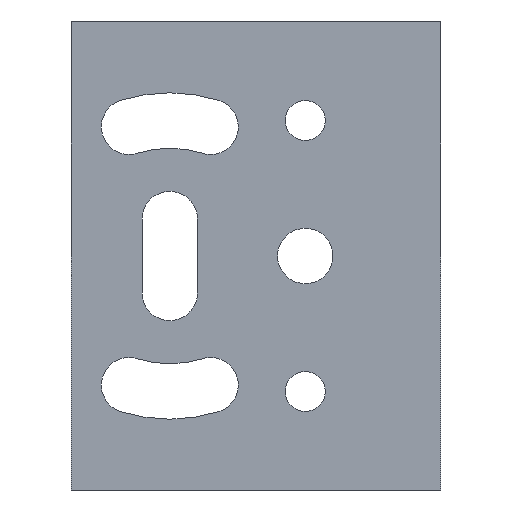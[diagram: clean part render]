
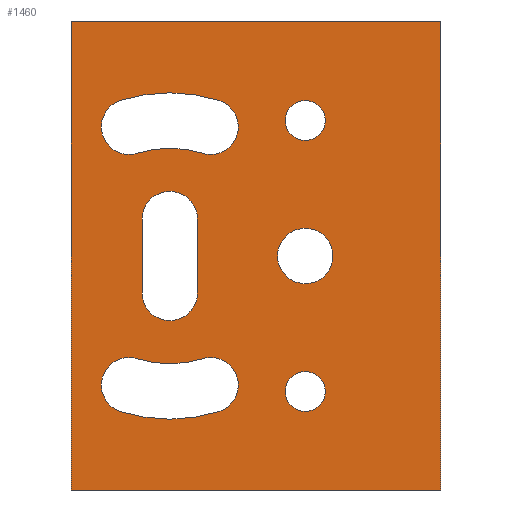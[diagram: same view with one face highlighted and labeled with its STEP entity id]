
A CAD part, left-side view. The second image highlights one B-rep face of the part: STEP entity #1460.
In plain terms, the highlighted planar face has unit normal (-1, 0, 0).
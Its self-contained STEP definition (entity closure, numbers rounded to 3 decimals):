
#923=CARTESIAN_POINT('',(-60.,18.016,6.363));
#924=VERTEX_POINT('',#923);
#925=CARTESIAN_POINT('',(-60.,25.984,6.363));
#926=VERTEX_POINT('',#925);
#927=CARTESIAN_POINT('',(-60.,22.,19.));
#928=DIRECTION('',(1.0,0.0,0.0));
#929=DIRECTION('',(0.0,0.0,-1.0));
#930=AXIS2_PLACEMENT_3D('',#927,#928,#929);
#931=CIRCLE('',#930,13.25);
#932=EDGE_CURVE('',#924,#926,#931,.T.);
#965=CARTESIAN_POINT('',(-60.,24.631,10.655));
#966=VERTEX_POINT('',#965);
#967=CARTESIAN_POINT('',(-60.,25.308,8.509));
#968=DIRECTION('',(1.0,0.,0.));
#969=DIRECTION('',(0.,0.301,-0.954));
#970=AXIS2_PLACEMENT_3D('',#967,#968,#969);
#971=CIRCLE('',#970,2.25);
#972=EDGE_CURVE('',#926,#966,#971,.T.);
#998=CARTESIAN_POINT('',(-60.,19.369,10.655));
#999=VERTEX_POINT('',#998);
#1000=CARTESIAN_POINT('',(-60.,22.,19.));
#1001=DIRECTION('',(-1.0,0.,0.));
#1002=DIRECTION('',(0.,0.301,0.954));
#1003=AXIS2_PLACEMENT_3D('',#1000,#1001,#1002);
#1004=CIRCLE('',#1003,8.75);
#1005=EDGE_CURVE('',#966,#999,#1004,.T.);
#1031=CARTESIAN_POINT('',(-60.,18.692,8.509));
#1032=DIRECTION('',(1.0,0.,0.));
#1033=DIRECTION('',(0.,0.301,0.954));
#1034=AXIS2_PLACEMENT_3D('',#1031,#1032,#1033);
#1035=CIRCLE('',#1034,2.25);
#1036=EDGE_CURVE('',#999,#924,#1035,.T.);
#1055=CARTESIAN_POINT('',(-60.,11.,31.621));
#1056=VERTEX_POINT('',#1055);
#1057=CARTESIAN_POINT('',(-60.,11.,30.0));
#1058=DIRECTION('',(1.0,0.0,0.0));
#1059=DIRECTION('',(0.0,0.0,-1.0));
#1060=AXIS2_PLACEMENT_3D('',#1057,#1058,#1059);
#1061=CIRCLE('',#1060,1.621);
#1062=EDGE_CURVE('',#1056,#1056,#1061,.T.);
#1083=CARTESIAN_POINT('',(-60.,24.631,27.345));
#1084=VERTEX_POINT('',#1083);
#1085=CARTESIAN_POINT('',(-60.,25.984,31.637));
#1086=VERTEX_POINT('',#1085);
#1087=CARTESIAN_POINT('',(-60.,25.308,29.491));
#1088=DIRECTION('',(1.0,0.,0.));
#1089=DIRECTION('',(0.,-0.301,-0.954));
#1090=AXIS2_PLACEMENT_3D('',#1087,#1088,#1089);
#1091=CIRCLE('',#1090,2.25);
#1092=EDGE_CURVE('',#1084,#1086,#1091,.T.);
#1125=CARTESIAN_POINT('',(-60.,18.016,31.637));
#1126=VERTEX_POINT('',#1125);
#1127=CARTESIAN_POINT('',(-60.,22.,19.));
#1128=DIRECTION('',(1.0,0.0,0.0));
#1129=DIRECTION('',(0.0,0.0,1.0));
#1130=AXIS2_PLACEMENT_3D('',#1127,#1128,#1129);
#1131=CIRCLE('',#1130,13.25);
#1132=EDGE_CURVE('',#1086,#1126,#1131,.T.);
#1158=CARTESIAN_POINT('',(-60.,19.369,27.345));
#1159=VERTEX_POINT('',#1158);
#1160=CARTESIAN_POINT('',(-60.,18.692,29.491));
#1161=DIRECTION('',(1.0,0.,0.));
#1162=DIRECTION('',(0.,-0.301,0.954));
#1163=AXIS2_PLACEMENT_3D('',#1160,#1161,#1162);
#1164=CIRCLE('',#1163,2.25);
#1165=EDGE_CURVE('',#1126,#1159,#1164,.T.);
#1191=CARTESIAN_POINT('',(-60.,22.,19.));
#1192=DIRECTION('',(-1.0,0.,0.));
#1193=DIRECTION('',(0.,-0.301,-0.954));
#1194=AXIS2_PLACEMENT_3D('',#1191,#1192,#1193);
#1195=CIRCLE('',#1194,8.75);
#1196=EDGE_CURVE('',#1159,#1084,#1195,.T.);
#1215=CARTESIAN_POINT('',(-60.,19.75,22.0));
#1216=VERTEX_POINT('',#1215);
#1217=CARTESIAN_POINT('',(-60.,19.75,16.));
#1218=VERTEX_POINT('',#1217);
#1219=CARTESIAN_POINT('',(-60.,19.75,22.0));
#1220=DIRECTION('',(0.0,0.0,-1.0));
#1221=VECTOR('',#1220,6.);
#1222=LINE('',#1219,#1221);
#1223=EDGE_CURVE('',#1216,#1218,#1222,.T.);
#1255=CARTESIAN_POINT('',(-60.,24.25,16.));
#1256=VERTEX_POINT('',#1255);
#1257=CARTESIAN_POINT('',(-60.,22.,16.));
#1258=DIRECTION('',(1.0,0.0,0.0));
#1259=DIRECTION('',(0.0,-1.0,0.0));
#1260=AXIS2_PLACEMENT_3D('',#1257,#1258,#1259);
#1261=CIRCLE('',#1260,2.25);
#1262=EDGE_CURVE('',#1218,#1256,#1261,.T.);
#1288=CARTESIAN_POINT('',(-60.,24.25,22.0));
#1289=VERTEX_POINT('',#1288);
#1290=CARTESIAN_POINT('',(-60.,24.25,16.));
#1291=DIRECTION('',(0.0,0.0,1.0));
#1292=VECTOR('',#1291,6.);
#1293=LINE('',#1290,#1292);
#1294=EDGE_CURVE('',#1256,#1289,#1293,.T.);
#1319=CARTESIAN_POINT('',(-60.,22.,22.0));
#1320=DIRECTION('',(1.0,0.0,0.0));
#1321=DIRECTION('',(0.0,1.0,0.0));
#1322=AXIS2_PLACEMENT_3D('',#1319,#1320,#1321);
#1323=CIRCLE('',#1322,2.25);
#1324=EDGE_CURVE('',#1289,#1216,#1323,.T.);
#1343=CARTESIAN_POINT('',(-60.,11.,16.75));
#1344=VERTEX_POINT('',#1343);
#1345=CARTESIAN_POINT('',(-60.,11.,19.0));
#1346=DIRECTION('',(1.0,0.0,0.0));
#1347=DIRECTION('',(0.0,0.0,1.0));
#1348=AXIS2_PLACEMENT_3D('',#1345,#1346,#1347);
#1349=CIRCLE('',#1348,2.25);
#1350=EDGE_CURVE('',#1344,#1344,#1349,.T.);
#1371=CARTESIAN_POINT('',(-60.,11.,6.379));
#1372=VERTEX_POINT('',#1371);
#1373=CARTESIAN_POINT('',(-60.,11.,8.));
#1374=DIRECTION('',(1.0,0.0,0.0));
#1375=DIRECTION('',(0.0,0.0,1.0));
#1376=AXIS2_PLACEMENT_3D('',#1373,#1374,#1375);
#1377=CIRCLE('',#1376,1.621);
#1378=EDGE_CURVE('',#1372,#1372,#1377,.T.);
#1394=CARTESIAN_POINT('',(-60.0,0.,0.0));
#1395=DIRECTION('',(-1.0,0.0,0.0));
#1396=DIRECTION('',(0.0,0.0,1.0));
#1397=AXIS2_PLACEMENT_3D('',#1394,#1395,#1396);
#1398=PLANE('',#1397);
#1399=CARTESIAN_POINT('',(-60.0,0.,38.0));
#1400=VERTEX_POINT('',#1399);
#1401=CARTESIAN_POINT('',(-60.,30.,38.0));
#1402=VERTEX_POINT('',#1401);
#1403=CARTESIAN_POINT('',(-60.0,0.,38.0));
#1404=DIRECTION('',(0.0,1.0,0.0));
#1405=VECTOR('',#1404,30.0);
#1406=LINE('',#1403,#1405);
#1407=EDGE_CURVE('',#1400,#1402,#1406,.T.);
#1408=ORIENTED_EDGE('',*,*,#1407,.T.);
#1409=CARTESIAN_POINT('',(-60.,30.,0.0));
#1410=VERTEX_POINT('',#1409);
#1411=CARTESIAN_POINT('',(-60.,30.,0.0));
#1412=DIRECTION('',(0.0,0.0,1.0));
#1413=VECTOR('',#1412,38.0);
#1414=LINE('',#1411,#1413);
#1415=EDGE_CURVE('',#1410,#1402,#1414,.T.);
#1416=ORIENTED_EDGE('',*,*,#1415,.F.);
#1417=CARTESIAN_POINT('',(-60.0,0.,0.0));
#1418=VERTEX_POINT('',#1417);
#1419=CARTESIAN_POINT('',(-60.0,0.,0.0));
#1420=DIRECTION('',(0.0,1.0,0.0));
#1421=VECTOR('',#1420,30.0);
#1422=LINE('',#1419,#1421);
#1423=EDGE_CURVE('',#1418,#1410,#1422,.T.);
#1424=ORIENTED_EDGE('',*,*,#1423,.F.);
#1425=CARTESIAN_POINT('',(-60.0,0.,0.0));
#1426=DIRECTION('',(0.0,0.0,1.0));
#1427=VECTOR('',#1426,38.0);
#1428=LINE('',#1425,#1427);
#1429=EDGE_CURVE('',#1418,#1400,#1428,.T.);
#1430=ORIENTED_EDGE('',*,*,#1429,.T.);
#1431=EDGE_LOOP('',(#1408,#1416,#1424,#1430));
#1432=FACE_OUTER_BOUND('',#1431,.T.);
#1433=ORIENTED_EDGE('',*,*,#1005,.T.);
#1434=ORIENTED_EDGE('',*,*,#1036,.T.);
#1435=ORIENTED_EDGE('',*,*,#932,.T.);
#1436=ORIENTED_EDGE('',*,*,#972,.T.);
#1437=EDGE_LOOP('',(#1433,#1434,#1435,#1436));
#1438=FACE_BOUND('',#1437,.T.);
#1439=ORIENTED_EDGE('',*,*,#1062,.T.);
#1440=EDGE_LOOP('',(#1439));
#1441=FACE_BOUND('',#1440,.T.);
#1442=ORIENTED_EDGE('',*,*,#1165,.T.);
#1443=ORIENTED_EDGE('',*,*,#1196,.T.);
#1444=ORIENTED_EDGE('',*,*,#1092,.T.);
#1445=ORIENTED_EDGE('',*,*,#1132,.T.);
#1446=EDGE_LOOP('',(#1442,#1443,#1444,#1445));
#1447=FACE_BOUND('',#1446,.T.);
#1448=ORIENTED_EDGE('',*,*,#1294,.T.);
#1449=ORIENTED_EDGE('',*,*,#1324,.T.);
#1450=ORIENTED_EDGE('',*,*,#1223,.T.);
#1451=ORIENTED_EDGE('',*,*,#1262,.T.);
#1452=EDGE_LOOP('',(#1448,#1449,#1450,#1451));
#1453=FACE_BOUND('',#1452,.T.);
#1454=ORIENTED_EDGE('',*,*,#1350,.T.);
#1455=EDGE_LOOP('',(#1454));
#1456=FACE_BOUND('',#1455,.T.);
#1457=ORIENTED_EDGE('',*,*,#1378,.T.);
#1458=EDGE_LOOP('',(#1457));
#1459=FACE_BOUND('',#1458,.T.);
#1460=ADVANCED_FACE('',(#1432,#1438,#1441,#1447,#1453,#1456,#1459),#1398,.T.);
